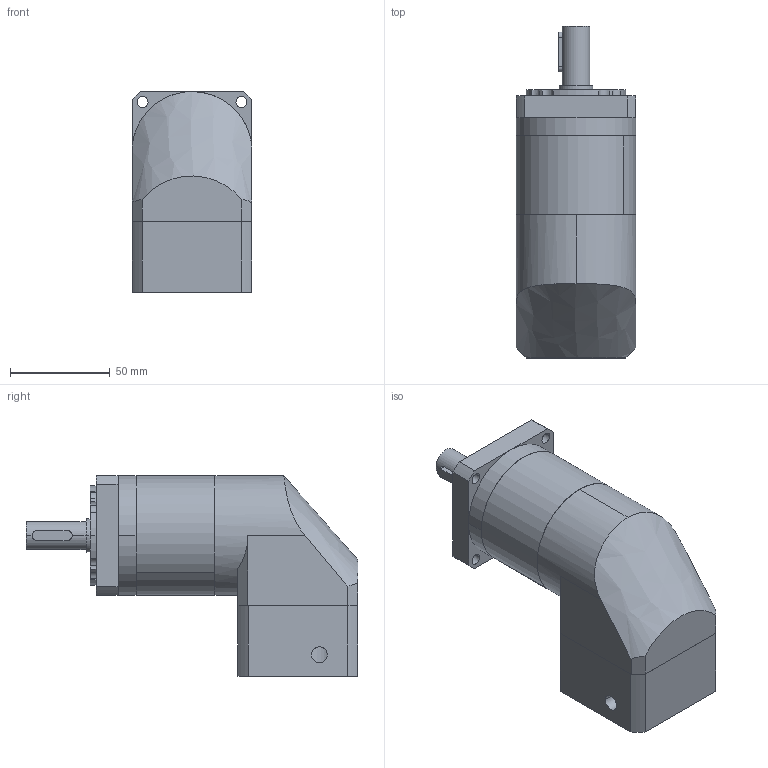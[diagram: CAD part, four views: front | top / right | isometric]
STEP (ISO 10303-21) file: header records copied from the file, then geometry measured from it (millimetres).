
FILE_DESCRIPTION (( 'STEP AP214' ), '1' );
FILE_NAME ('PVFN60-L2.STEP', '2020-09-16T06:07:47', ( '微软用户' ), ( '微软中国' ), 'SwSTEP 2.0', 'SolidWorks 2014', '' );
FILE_SCHEMA (( 'AUTOMOTIVE_DESIGN' ));
Length unit declared in the file: millimetre
Products named in the file (17): 邧埴瑩  5x5x20; 囀鞠褒蹟佪-M5℅16; PFR60-蟀諉啣; 双列角接触球轴承 5203_2; PFR60-薊粣; PFR60 奻屳唳_D1-70 D2-5.5 D3-14 D4-17 D5-50 L1-30 L2-35 L3-3 A1-60 S1-3 S2-20 S3-5 S4-18 B-5 H-16 C-M5; PFR60 內齿圈_二级内齿圈; PFR60-眊极-揤翉_揤翉; PVFN60-L2
Assembly tree (8 placements, depth 2):
  PFR60 內齿圈_二级内齿圈
  PFR60-眊极-揤翉_揤翉
  邧埴瑩  5x5x20
  囀鞠褒蹟佪-M5℅16
  PFR60-蟀諉啣
Bounding box: 60 x 166 x 100.5 mm (x, y, z)
Volume: 467792.2 mm3; surface area: 97440 mm2
Topology: 8 solids, 8 shells, 520 faces, 1430 edges, 928 vertices
Faces by surface type: cylinder 192, plane 172, bspline 125, cone 31
Entity records: 26079 total; most frequent: CARTESIAN_POINT 7183, ORIENTED_EDGE 2824, DIRECTION 2519, EDGE_CURVE 1412, AXIS2_PLACEMENT_3D 1012, VERTEX_POINT 928, EDGE_LOOP 608, CIRCLE 605
